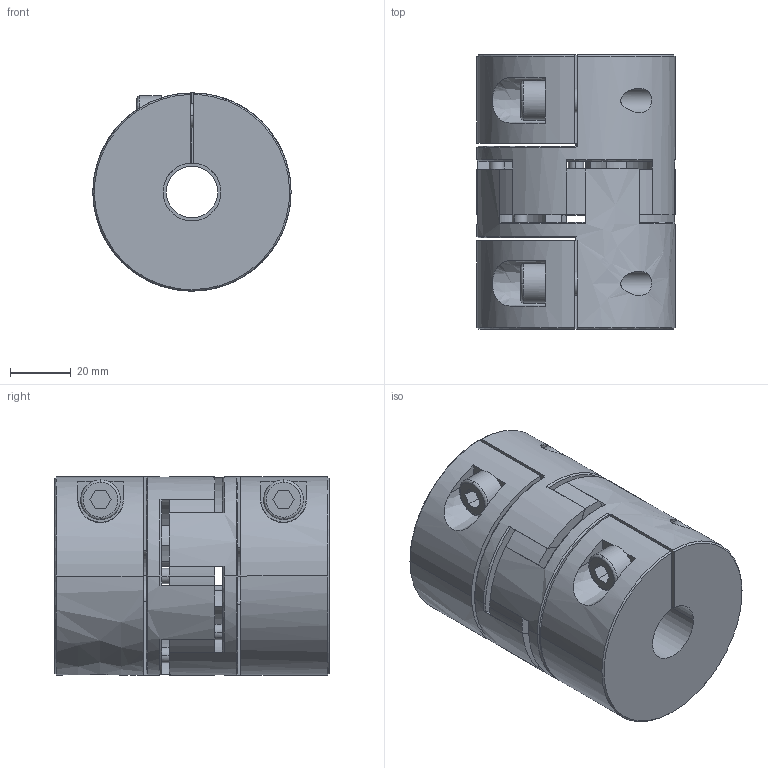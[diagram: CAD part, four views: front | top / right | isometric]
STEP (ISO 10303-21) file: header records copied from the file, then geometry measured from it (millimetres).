
FILE_DESCRIPTION (( 'STEP AP214' ), '1' );
FILE_NAME ('2.5012 Sakarakytkin MM2 65 D17_19.STEP', '2024-06-03T09:57:33', ( '' ), ( '' ), 'SwSTEP 2.0', 'SolidWorks 2024', '' );
FILE_SCHEMA (( 'AUTOMOTIVE_DESIGN' ));
Length unit declared in the file: millimetre
Products named in the file (1): 2.5012 Sakarakytkin MM2 65 D17_19
Bounding box: 65 x 90 x 65 mm (x, y, z)
Volume: 248179.5 mm3; surface area: 57751.6 mm2
Topology: 3 solids, 3 shells, 192 faces, 514 edges, 340 vertices
Faces by surface type: cylinder 80, plane 61, bspline 31, cone 20
Entity records: 9387 total; most frequent: CARTESIAN_POINT 4610, ORIENTED_EDGE 1028, DIRECTION 577, EDGE_CURVE 514, VERTEX_POINT 340, B_SPLINE_CURVE_WITH_KNOTS 223, AXIS2_PLACEMENT_3D 223, EDGE_LOOP 214
